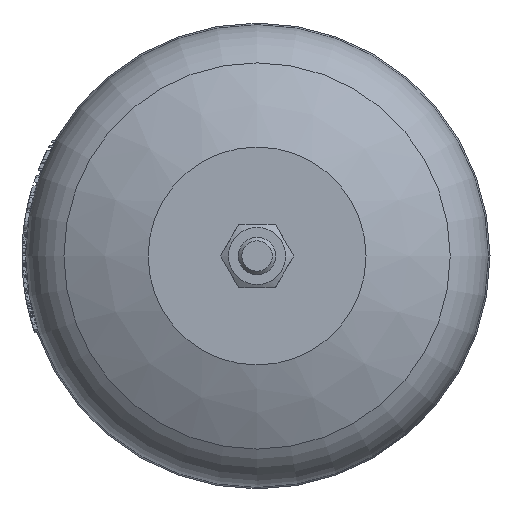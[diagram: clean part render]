
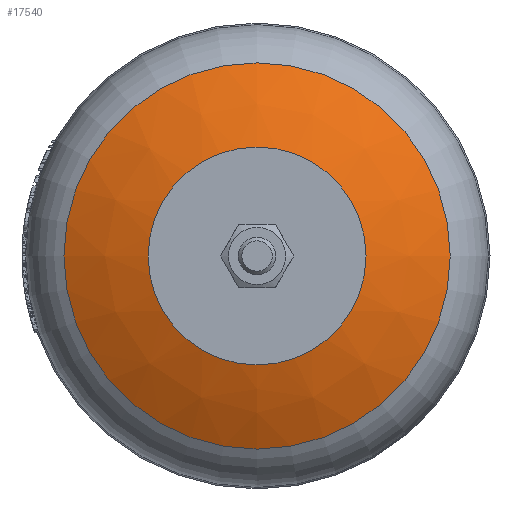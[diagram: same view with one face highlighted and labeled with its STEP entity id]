
A CAD part, front view. The second image highlights one B-rep face of the part: STEP entity #17540.
In plain terms, the highlighted free-form (B-spline) face has degree [2, 2] with [3, 9] control points.
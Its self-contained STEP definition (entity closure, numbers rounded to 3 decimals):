
#21=(
BOUNDED_SURFACE()
B_SPLINE_SURFACE(2,2,((#37939,#37940,#37941,#37942,#37943,#37944,#37945,
#37946,#37947),(#37948,#37949,#37950,#37951,#37952,#37953,#37954,#37955,
#37956),(#37957,#37958,#37959,#37960,#37961,#37962,#37963,#37964,#37965)),
 .UNSPECIFIED.,.F.,.T.,.F.)
B_SPLINE_SURFACE_WITH_KNOTS((3,3),(3,2,2,2,3),(-1.294,-1.061),
(-3.142,-1.571,0.,1.571,3.142),
 .UNSPECIFIED.)
GEOMETRIC_REPRESENTATION_ITEM()
RATIONAL_B_SPLINE_SURFACE(((1.,0.707,1.,0.707,1.,
0.707,1.,0.707,1.),(0.993,0.702,
0.993,0.702,0.993,0.702,
0.993,0.702,0.993),(1.,0.707,
1.,0.707,1.,0.707,1.,0.707,1.)))
REPRESENTATION_ITEM('')
SURFACE()
);
#34=(
BOUNDED_CURVE()
B_SPLINE_CURVE(2,(#37970,#37971,#37972),.UNSPECIFIED.,.F.,.F.)
B_SPLINE_CURVE_WITH_KNOTS((3,3),(1.061,1.294),
 .UNSPECIFIED.)
CURVE()
GEOMETRIC_REPRESENTATION_ITEM()
RATIONAL_B_SPLINE_CURVE((1.,0.993,1.))
REPRESENTATION_ITEM('')
);
#1371=CIRCLE('',#18883,29.205);
#1372=CIRCLE('',#18884,29.205);
#1373=CIRCLE('',#18885,51.765);
#1374=CIRCLE('',#18886,51.765);
#5180=FACE_OUTER_BOUND('',#6282,.T.);
#6282=EDGE_LOOP('',(#16523,#16524,#16525,#16526,#16527,#16528));
#8727=VERTEX_POINT('',#37935);
#8728=VERTEX_POINT('',#37936);
#8729=VERTEX_POINT('',#37966);
#8730=VERTEX_POINT('',#37967);
#11329=EDGE_CURVE('',#8727,#8728,#1371,.T.);
#11330=EDGE_CURVE('',#8728,#8727,#1372,.T.);
#11331=EDGE_CURVE('',#8729,#8730,#1373,.T.);
#11332=EDGE_CURVE('',#8730,#8729,#1374,.T.);
#11333=EDGE_CURVE('',#8730,#8728,#34,.T.);
#16523=ORIENTED_EDGE('',*,*,#11331,.F.);
#16524=ORIENTED_EDGE('',*,*,#11332,.F.);
#16525=ORIENTED_EDGE('',*,*,#11333,.T.);
#16526=ORIENTED_EDGE('',*,*,#11330,.T.);
#16527=ORIENTED_EDGE('',*,*,#11329,.T.);
#16528=ORIENTED_EDGE('',*,*,#11333,.F.);
#17540=ADVANCED_FACE('',(#5180),#21,.F.);
#18883=AXIS2_PLACEMENT_3D('',#37937,#22745,#22746);
#18884=AXIS2_PLACEMENT_3D('',#37938,#22747,#22748);
#18885=AXIS2_PLACEMENT_3D('',#37968,#22749,#22750);
#18886=AXIS2_PLACEMENT_3D('',#37969,#22751,#22752);
#22745=DIRECTION('center_axis',(0.,1.,0.));
#22746=DIRECTION('ref_axis',(-1.,0.,0.));
#22747=DIRECTION('center_axis',(0.,1.,0.));
#22748=DIRECTION('ref_axis',(-1.,0.,0.));
#22749=DIRECTION('center_axis',(0.,1.,0.));
#22750=DIRECTION('ref_axis',(-1.,0.,0.));
#22751=DIRECTION('center_axis',(0.,1.,0.));
#22752=DIRECTION('ref_axis',(-1.,0.,0.));
#37935=CARTESIAN_POINT('',(-29.205,0.,0.));
#37936=CARTESIAN_POINT('',(0.,0.,-29.205));
#37937=CARTESIAN_POINT('Origin',(0.,0.,0.));
#37938=CARTESIAN_POINT('Origin',(0.,0.,0.));
#37939=CARTESIAN_POINT('Ctrl Pts',(0.,0.,-29.205));
#37940=CARTESIAN_POINT('Ctrl Pts',(-29.205,0.,
-29.205));
#37941=CARTESIAN_POINT('Ctrl Pts',(-29.205,0.,
0.));
#37942=CARTESIAN_POINT('Ctrl Pts',(-29.205,0.,
29.205));
#37943=CARTESIAN_POINT('Ctrl Pts',(0.,0.,29.205));
#37944=CARTESIAN_POINT('Ctrl Pts',(29.205,0.,
29.205));
#37945=CARTESIAN_POINT('Ctrl Pts',(29.205,0.,
0.));
#37946=CARTESIAN_POINT('Ctrl Pts',(29.205,0.,
-29.205));
#37947=CARTESIAN_POINT('Ctrl Pts',(0.,0.,-29.205));
#37948=CARTESIAN_POINT('Ctrl Pts',(0.,3.362,-41.033));
#37949=CARTESIAN_POINT('Ctrl Pts',(-41.033,3.362,-41.033));
#37950=CARTESIAN_POINT('Ctrl Pts',(-41.033,3.362,0.));
#37951=CARTESIAN_POINT('Ctrl Pts',(-41.033,3.362,41.033));
#37952=CARTESIAN_POINT('Ctrl Pts',(0.,3.362,41.033));
#37953=CARTESIAN_POINT('Ctrl Pts',(41.033,3.362,41.033));
#37954=CARTESIAN_POINT('Ctrl Pts',(41.033,3.362,0.));
#37955=CARTESIAN_POINT('Ctrl Pts',(41.033,3.362,-41.033));
#37956=CARTESIAN_POINT('Ctrl Pts',(0.,3.362,-41.033));
#37957=CARTESIAN_POINT('Ctrl Pts',(0.,9.365,-51.765));
#37958=CARTESIAN_POINT('Ctrl Pts',(-51.765,9.365,-51.765));
#37959=CARTESIAN_POINT('Ctrl Pts',(-51.765,9.365,0.));
#37960=CARTESIAN_POINT('Ctrl Pts',(-51.765,9.365,51.765));
#37961=CARTESIAN_POINT('Ctrl Pts',(0.,9.365,51.765));
#37962=CARTESIAN_POINT('Ctrl Pts',(51.765,9.365,51.765));
#37963=CARTESIAN_POINT('Ctrl Pts',(51.765,9.365,0.));
#37964=CARTESIAN_POINT('Ctrl Pts',(51.765,9.365,-51.765));
#37965=CARTESIAN_POINT('Ctrl Pts',(0.,9.365,-51.765));
#37966=CARTESIAN_POINT('',(-51.765,9.365,0.));
#37967=CARTESIAN_POINT('',(0.,9.365,-51.765));
#37968=CARTESIAN_POINT('Origin',(0.,9.365,0.));
#37969=CARTESIAN_POINT('Origin',(0.,9.365,0.));
#37970=CARTESIAN_POINT('Ctrl Pts',(0.,9.365,-51.765));
#37971=CARTESIAN_POINT('Ctrl Pts',(0.,3.362,-41.033));
#37972=CARTESIAN_POINT('Ctrl Pts',(0.,0.,-29.205));
